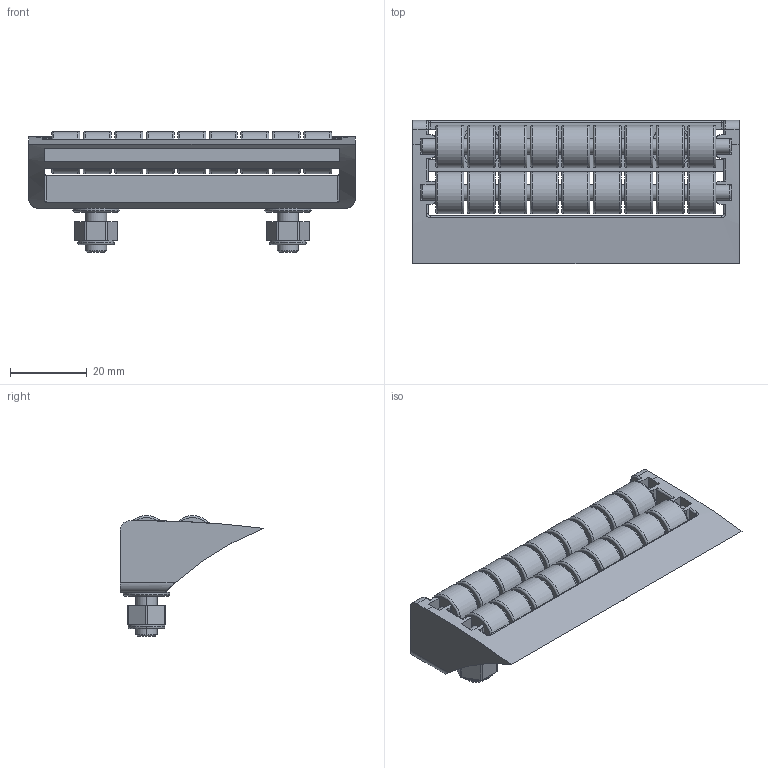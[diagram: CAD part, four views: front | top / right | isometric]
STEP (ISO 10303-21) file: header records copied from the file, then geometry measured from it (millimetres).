
FILE_DESCRIPTION(('CATIA V5 STEP Exchange'),'2;1');
FILE_NAME('C:\Users\ALI OZGUN\Desktop\alhan\AKTARMA_MODULAR\800167077.stp','2017-11-06T11:40:47+00:00',('none'),('none'),'CATIA Version 5 Release 21 GA (IN-10)','CATIA V5 STEP AP203','none');
FILE_SCHEMA(('CONFIG_CONTROL_DESIGN'));
Length unit declared in the file: millimetre
Products named in the file (1): 800167077
Bounding box: 85 x 37.3 x 31.5 mm (x, y, z)
Volume: 27506 mm3; surface area: 22772.4 mm2
Topology: 27 solids, 27 shells, 396 faces, 902 edges, 564 vertices
Faces by surface type: cylinder 162, plane 128, torus 92, cone 12, bspline 2
Entity records: 10480 total; most frequent: CARTESIAN_POINT 1979, ORIENTED_EDGE 1804, DIRECTION 1459, EDGE_CURVE 902, AXIS2_PLACEMENT_3D 791, VERTEX_POINT 564, CIRCLE 497, EDGE_LOOP 456
